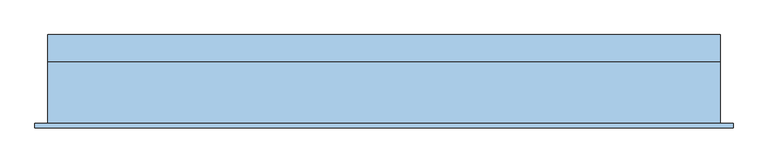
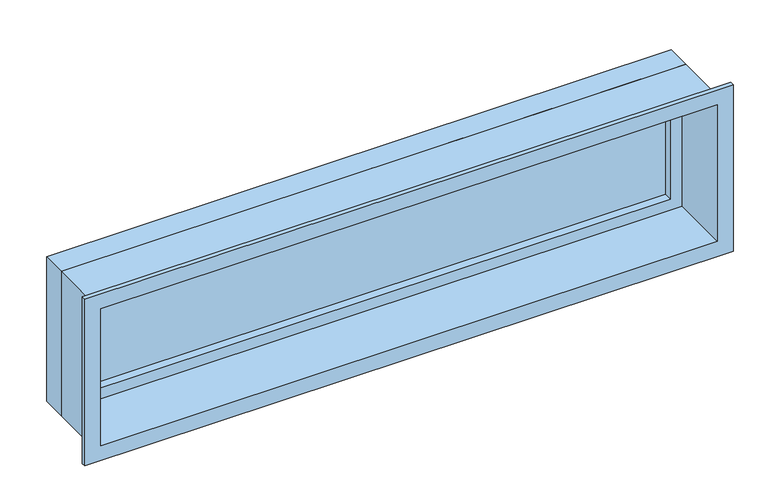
"""IFC4 building model written with IfcOpenShell, lengths in millimetres: window geometry, Vindu FK : 23X6 FK V1."""

from ifc_helpers import new_model, si_unit, frame, origin, place, context, project, spatial, polyline, outline, extrude, faceted_brep, source, transform, mapped, element, save


def window_12c30cfa(model_context):
    return source(origin(), model_context, "Body", "SolidModel", [
        extrude(outline(polyline([(-1106.0, 94.0), (1106.0, 94.0), (1106.0, 70.0), (-1106.0, 70.0), (-1106.0, 94.0)])), frame((0.0, 0.0, 929.0), z_axis=(0.0, 0.0, 1.0), x_axis=(1.0, 0.0, 0.0)), (0.0, 0.0, 1.0), 482.0),
        faceted_brep([(-1145.0, 130.0, 890.0), (-1145.0, 38.0, 890.0), (-1145.0, 38.0, 1450.0), (-1145.0, 130.0, 1450.0), (-1106.0, 70.0, 929.0), (-1106.0, 130.0, 929.0), (-1106.0, 130.0, 1411.0), (-1106.0, 70.0, 1411.0), (-1088.0, 38.0, 947.0), (-1088.0, 70.0, 947.0), (-1088.0, 70.0, 1393.0), (-1088.0, 38.0, 1393.0), (1145.0, 38.0, 1450.0), (1145.0, 130.0, 1450.0), (1106.0, 130.0, 1411.0), (1106.0, 70.0, 1411.0), (1088.0, 70.0, 1393.0), (1088.0, 38.0, 1393.0), (1145.0, 38.0, 890.0), (1145.0, 130.0, 890.0), (1106.0, 130.0, 929.0), (1106.0, 70.0, 929.0), (1088.0, 70.0, 947.0), (1088.0, 38.0, 947.0)], [[[0, 1, 2, 3]], [[4, 5, 6, 7]], [[8, 9, 10, 11]], [[3, 2, 12, 13]], [[7, 6, 14, 15]], [[11, 10, 16, 17]], [[13, 12, 18, 19]], [[15, 14, 20, 21]], [[17, 16, 22, 23]], [[19, 18, 1, 0]], [[3, 13, 19, 0], [5, 20, 14, 6]], [[21, 20, 5, 4]], [[7, 15, 21, 4], [9, 22, 16, 10]], [[23, 22, 9, 8]], [[1, 18, 12, 2], [11, 17, 23, 8]]]),
        faceted_brep([(-1145.0, -172.0, 890.0), (-1145.0, 38.0, 890.0), (1145.0, 38.0, 890.0), (1145.0, -172.0, 890.0), (1145.0, 38.0, 1450.0), (1145.0, -172.0, 1450.0), (-1145.0, 38.0, 1450.0), (1130.0, 38.0, 1435.0), (-1130.0, 38.0, 1435.0), (-1130.0, 38.0, 905.0), (1130.0, 38.0, 905.0), (1188.0, -172.0, 847.0), (-1188.0, -172.0, 847.0), (-1188.0, -172.0, 1493.0), (1188.0, -172.0, 1493.0), (-1145.0, -172.0, 1450.0), (-1188.0, -187.0, 847.0), (1188.0, -187.0, 847.0), (1188.0, -187.0, 1493.0), (-1188.0, -187.0, 1493.0), (1130.0, -187.0, 905.0), (-1130.0, -187.0, 905.0), (-1130.0, -187.0, 1435.0), (1130.0, -187.0, 1435.0)], [[[0, 1, 2, 3]], [[3, 2, 4, 5]], [[2, 1, 6, 4], [7, 8, 9, 10]], [[11, 12, 13, 14], [5, 15, 0, 3]], [[16, 12, 11, 17]], [[17, 11, 14, 18]], [[18, 19, 16, 17], [20, 21, 22, 23]], [[9, 21, 20, 10]], [[10, 20, 23, 7]], [[15, 6, 1, 0]], [[19, 13, 12, 16]], [[8, 22, 21, 9]], [[5, 4, 6, 15]], [[18, 14, 13, 19]], [[7, 23, 22, 8]]]),
    ])


if __name__ == "__main__":
    model = new_model("IFC4")
    model_context = context("Model", 3, world=origin())
    ifc_project = project(units=[si_unit("LENGTHUNIT", "METRE", prefix="MILLI")], contexts=[model_context])
    site = spatial("IfcSite", under=ifc_project)
    building = spatial("IfcBuilding", under=site)
    placement = place(None, origin())
    window_shape = window_12c30cfa(model_context)
    element("IfcWindow", 1, ObjectType="Vindu FK : 23X6 FK V1", at=placement, inside=building, context=model_context, shape_type="MappedRepresentation", body=[
        mapped(window_shape, transform((0.0, 0.0, 0.0), x_axis=(1.0, 0.0, 0.0), y_axis=(0.0, 1.0, 0.0), z_axis=(0.0, 0.0, 1.0))),
    ])
    save(model, "model.ifc")
